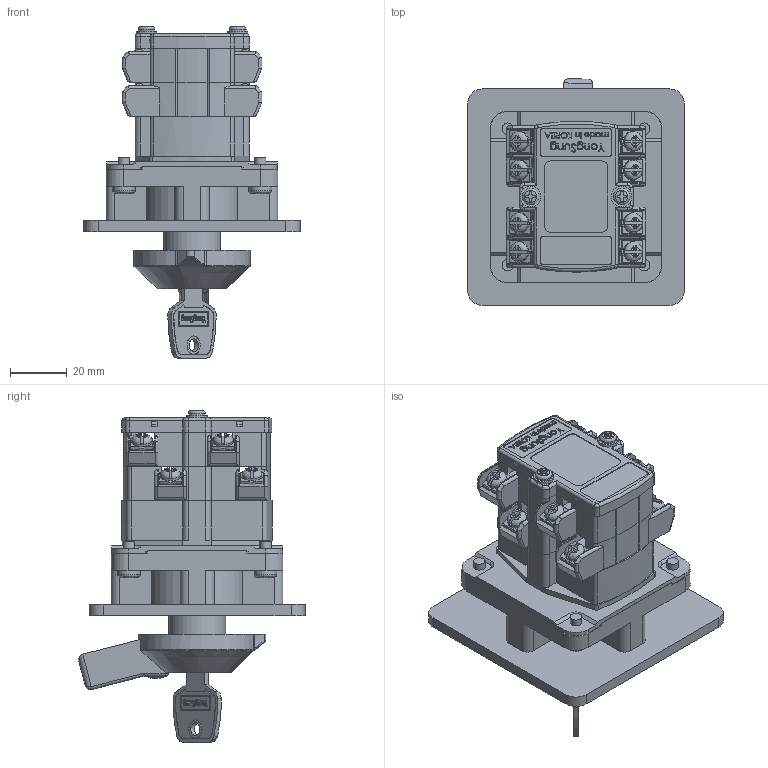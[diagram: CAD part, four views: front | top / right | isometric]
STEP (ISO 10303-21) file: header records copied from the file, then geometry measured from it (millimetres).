
FILE_DESCRIPTION(/* description */ (''),/* implementation_level */ '2;1');
FILE_NAME(/* name */ 'Y:\카다로그-외형도 관련\step-file 외형도\KDNC\YSKDNC3211-74M10L3.stp',/* time_stamp */ '2016-11-22T13:14:46+09:00',/* author */ ('Jangkb'),/* organization */ (''),/* preprocessor_version */ 'ST-DEVELOPER v16.1',/* originating_system */ 'Autodesk Inventor 2016',/* authorisation */ '');
FILE_SCHEMA (('AUTOMOTIVE_DESIGN { 1 0 10303 214 3 1 1 }'));
Products named in the file (20): BODY 10 121108; contact block 10A 121107; terminal-1 10A 121108; terminal-4 10A 121108; terminal-3 10A 121108; contact block ASS'Y 10A 121108.SLDPRT; cover 10A 121108; SCREW WASHER M3.5; BRACKET 6TYPE; SHAFT 6; SCREW 3.5; mounting plate; body; Kye assy; handle; name plate; Kye; HANDLE BOLT; BOLT M4; YSKDNC3211-74M10L3
Assembly tree (30 placements, depth 2):
  contact block ASS'Y 10A 121108.SLDPRT
    contact block 10A 121107
    terminal-1 10A 121108
    terminal-4 10A 121108  x2
    terminal-3 10A 121108
  YSKDNC3211-74M10L3
    BODY 10 121108
    cover 10A 121108
    SCREW WASHER M3.5  x2
    BRACKET 6TYPE
    SHAFT 6
    SCREW 3.5  x8
    mounting plate
    body
    Kye assy
    handle
    name plate
    Kye
    HANDLE BOLT
    BOLT M4  x4
Bounding box: 76 x 79.62 x 116.65 mm (x, y, z)
Volume: 162201 mm3; surface area: 84058.7 mm2
Topology: 35 solids, 35 shells, 2343 faces, 6356 edges, 4170 vertices
Faces by surface type: plane 1655, cylinder 362, bspline 298, torus 13, cone 11, sphere 4
Full cylindrical faces by diameter (mm): 2.395 x8, 2.5 x2, 3 x2, 3.3 x8, 3.4 x4, 3.5 x6, 3.8 x2, 4 x14, 4.5 x9, 5.5 x1, 5.9 x2, 6.5 x2, 7 x8, 7.2 x2, 8 x4, 12.2 x1, 18.5 x1, 20 x2, 20.2 x1, 20.3 x1, 30 x1, 70 x1, 70.3 x1
Entity records: 51834 total; most frequent: CARTESIAN_POINT 17853, ORIENTED_EDGE 7390, DIRECTION 6001, EDGE_CURVE 3695, LINE 2491, VECTOR 2491, VERTEX_POINT 2467, AXIS2_PLACEMENT_3D 1755
